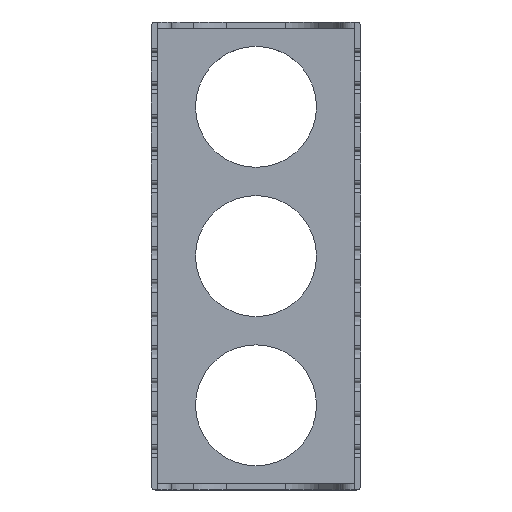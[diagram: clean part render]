
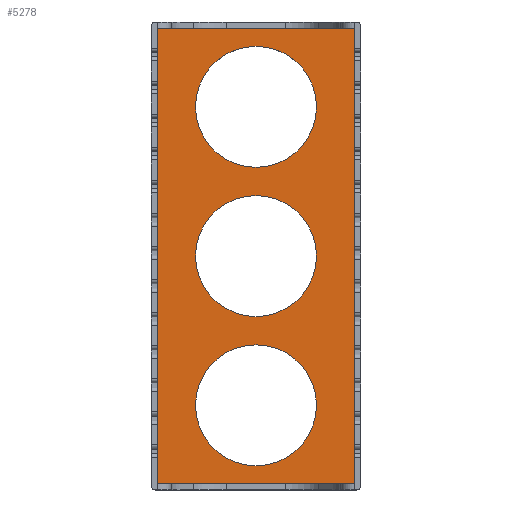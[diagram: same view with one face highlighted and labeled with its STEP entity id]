
A CAD part, top view. The second image highlights one B-rep face of the part: STEP entity #5278.
In plain terms, the highlighted planar face has unit normal (0, 0, 1).
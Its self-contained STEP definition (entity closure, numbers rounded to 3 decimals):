
#62 = PLANE('',#63);
#63 = AXIS2_PLACEMENT_3D('',#64,#65,#66);
#64 = CARTESIAN_POINT('',(3.,229.,77.));
#65 = DIRECTION('',(-1.,0.,0.));
#66 = DIRECTION('',(0.,-1.,0.));
#218 = VERTEX_POINT('',#219);
#219 = CARTESIAN_POINT('',(3.,229.,2.));
#233 = PLANE('',#234);
#234 = AXIS2_PLACEMENT_3D('',#235,#236,#237);
#235 = CARTESIAN_POINT('',(101.,229.,77.));
#236 = DIRECTION('',(0.,1.,0.));
#237 = DIRECTION('',(-1.,0.,0.));
#245 = EDGE_CURVE('',#218,#246,#248,.T.);
#246 = VERTEX_POINT('',#247);
#247 = CARTESIAN_POINT('',(3.,3.,2.));
#248 = SURFACE_CURVE('',#249,(#253,#260),.PCURVE_S1.);
#249 = LINE('',#250,#251);
#250 = CARTESIAN_POINT('',(3.,229.,2.));
#251 = VECTOR('',#252,1.);
#252 = DIRECTION('',(0.,-1.,0.));
#253 = PCURVE('',#62,#254);
#254 = DEFINITIONAL_REPRESENTATION('',(#255),#259);
#255 = LINE('',#256,#257);
#256 = CARTESIAN_POINT('',(0.,-75.));
#257 = VECTOR('',#258,1.);
#258 = DIRECTION('',(1.,0.));
#259 = ( GEOMETRIC_REPRESENTATION_CONTEXT(2) 
PARAMETRIC_REPRESENTATION_CONTEXT() REPRESENTATION_CONTEXT('2D SPACE',''
  ) );
#260 = PCURVE('',#261,#266);
#261 = PLANE('',#262);
#262 = AXIS2_PLACEMENT_3D('',#263,#264,#265);
#263 = CARTESIAN_POINT('',(52.,116.,2.));
#264 = DIRECTION('',(0.,0.,1.));
#265 = DIRECTION('',(1.,0.,-0.));
#266 = DEFINITIONAL_REPRESENTATION('',(#267),#271);
#267 = LINE('',#268,#269);
#268 = CARTESIAN_POINT('',(-49.,113.));
#269 = VECTOR('',#270,1.);
#270 = DIRECTION('',(0.,-1.));
#271 = ( GEOMETRIC_REPRESENTATION_CONTEXT(2) 
PARAMETRIC_REPRESENTATION_CONTEXT() REPRESENTATION_CONTEXT('2D SPACE',''
  ) );
#289 = PLANE('',#290);
#290 = AXIS2_PLACEMENT_3D('',#291,#292,#293);
#291 = CARTESIAN_POINT('',(3.,3.,77.));
#292 = DIRECTION('',(0.,-1.,0.));
#293 = DIRECTION('',(1.,0.,0.));
#5008 = VERTEX_POINT('',#5009);
#5009 = CARTESIAN_POINT('',(101.,229.,2.));
#5023 = PLANE('',#5024);
#5024 = AXIS2_PLACEMENT_3D('',#5025,#5026,#5027);
#5025 = CARTESIAN_POINT('',(101.,3.,77.));
#5026 = DIRECTION('',(1.,0.,0.));
#5027 = DIRECTION('',(0.,1.,0.));
#5035 = EDGE_CURVE('',#5008,#218,#5036,.T.);
#5036 = SURFACE_CURVE('',#5037,(#5041,#5048),.PCURVE_S1.);
#5037 = LINE('',#5038,#5039);
#5038 = CARTESIAN_POINT('',(101.,229.,2.));
#5039 = VECTOR('',#5040,1.);
#5040 = DIRECTION('',(-1.,0.,0.));
#5041 = PCURVE('',#233,#5042);
#5042 = DEFINITIONAL_REPRESENTATION('',(#5043),#5047);
#5043 = LINE('',#5044,#5045);
#5044 = CARTESIAN_POINT('',(0.,-75.));
#5045 = VECTOR('',#5046,1.);
#5046 = DIRECTION('',(1.,0.));
#5047 = ( GEOMETRIC_REPRESENTATION_CONTEXT(2) 
PARAMETRIC_REPRESENTATION_CONTEXT() REPRESENTATION_CONTEXT('2D SPACE',''
  ) );
#5048 = PCURVE('',#261,#5049);
#5049 = DEFINITIONAL_REPRESENTATION('',(#5050),#5054);
#5050 = LINE('',#5051,#5052);
#5051 = CARTESIAN_POINT('',(49.,113.));
#5052 = VECTOR('',#5053,1.);
#5053 = DIRECTION('',(-1.,0.));
#5054 = ( GEOMETRIC_REPRESENTATION_CONTEXT(2) 
PARAMETRIC_REPRESENTATION_CONTEXT() REPRESENTATION_CONTEXT('2D SPACE',''
  ) );
#5278 = ADVANCED_FACE('',(#5279,#5327,#5362,#5397),#261,.T.);
#5279 = FACE_BOUND('',#5280,.T.);
#5280 = EDGE_LOOP('',(#5281,#5282,#5305,#5326));
#5281 = ORIENTED_EDGE('',*,*,#245,.T.);
#5282 = ORIENTED_EDGE('',*,*,#5283,.T.);
#5283 = EDGE_CURVE('',#246,#5284,#5286,.T.);
#5284 = VERTEX_POINT('',#5285);
#5285 = CARTESIAN_POINT('',(101.,3.,2.));
#5286 = SURFACE_CURVE('',#5287,(#5291,#5298),.PCURVE_S1.);
#5287 = LINE('',#5288,#5289);
#5288 = CARTESIAN_POINT('',(3.,3.,2.));
#5289 = VECTOR('',#5290,1.);
#5290 = DIRECTION('',(1.,0.,0.));
#5291 = PCURVE('',#261,#5292);
#5292 = DEFINITIONAL_REPRESENTATION('',(#5293),#5297);
#5293 = LINE('',#5294,#5295);
#5294 = CARTESIAN_POINT('',(-49.,-113.));
#5295 = VECTOR('',#5296,1.);
#5296 = DIRECTION('',(1.,0.));
#5297 = ( GEOMETRIC_REPRESENTATION_CONTEXT(2) 
PARAMETRIC_REPRESENTATION_CONTEXT() REPRESENTATION_CONTEXT('2D SPACE',''
  ) );
#5298 = PCURVE('',#289,#5299);
#5299 = DEFINITIONAL_REPRESENTATION('',(#5300),#5304);
#5300 = LINE('',#5301,#5302);
#5301 = CARTESIAN_POINT('',(0.,-75.));
#5302 = VECTOR('',#5303,1.);
#5303 = DIRECTION('',(1.,0.));
#5304 = ( GEOMETRIC_REPRESENTATION_CONTEXT(2) 
PARAMETRIC_REPRESENTATION_CONTEXT() REPRESENTATION_CONTEXT('2D SPACE',''
  ) );
#5305 = ORIENTED_EDGE('',*,*,#5306,.T.);
#5306 = EDGE_CURVE('',#5284,#5008,#5307,.T.);
#5307 = SURFACE_CURVE('',#5308,(#5312,#5319),.PCURVE_S1.);
#5308 = LINE('',#5309,#5310);
#5309 = CARTESIAN_POINT('',(101.,3.,2.));
#5310 = VECTOR('',#5311,1.);
#5311 = DIRECTION('',(0.,1.,0.));
#5312 = PCURVE('',#261,#5313);
#5313 = DEFINITIONAL_REPRESENTATION('',(#5314),#5318);
#5314 = LINE('',#5315,#5316);
#5315 = CARTESIAN_POINT('',(49.,-113.));
#5316 = VECTOR('',#5317,1.);
#5317 = DIRECTION('',(0.,1.));
#5318 = ( GEOMETRIC_REPRESENTATION_CONTEXT(2) 
PARAMETRIC_REPRESENTATION_CONTEXT() REPRESENTATION_CONTEXT('2D SPACE',''
  ) );
#5319 = PCURVE('',#5023,#5320);
#5320 = DEFINITIONAL_REPRESENTATION('',(#5321),#5325);
#5321 = LINE('',#5322,#5323);
#5322 = CARTESIAN_POINT('',(0.,-75.));
#5323 = VECTOR('',#5324,1.);
#5324 = DIRECTION('',(1.,0.));
#5325 = ( GEOMETRIC_REPRESENTATION_CONTEXT(2) 
PARAMETRIC_REPRESENTATION_CONTEXT() REPRESENTATION_CONTEXT('2D SPACE',''
  ) );
#5326 = ORIENTED_EDGE('',*,*,#5035,.T.);
#5327 = FACE_BOUND('',#5328,.T.);
#5328 = EDGE_LOOP('',(#5329));
#5329 = ORIENTED_EDGE('',*,*,#5330,.T.);
#5330 = EDGE_CURVE('',#5331,#5331,#5333,.T.);
#5331 = VERTEX_POINT('',#5332);
#5332 = CARTESIAN_POINT('',(22.,42.,2.));
#5333 = SURFACE_CURVE('',#5334,(#5339,#5350),.PCURVE_S1.);
#5334 = CIRCLE('',#5335,30.);
#5335 = AXIS2_PLACEMENT_3D('',#5336,#5337,#5338);
#5336 = CARTESIAN_POINT('',(52.,42.,2.));
#5337 = DIRECTION('',(0.,0.,-1.));
#5338 = DIRECTION('',(-1.,0.,-0.));
#5339 = PCURVE('',#261,#5340);
#5340 = DEFINITIONAL_REPRESENTATION('',(#5341),#5349);
#5341 = ( BOUNDED_CURVE() B_SPLINE_CURVE(2,(#5342,#5343,#5344,#5345,
#5346,#5347,#5348),.UNSPECIFIED.,.T.,.F.) B_SPLINE_CURVE_WITH_KNOTS((1,2
    ,2,2,2,1),(-2.094,0.,2.094,4.189,
6.283,8.378),.UNSPECIFIED.) CURVE() 
GEOMETRIC_REPRESENTATION_ITEM() RATIONAL_B_SPLINE_CURVE((1.,0.5,1.,0.5,
1.,0.5,1.)) REPRESENTATION_ITEM('') );
#5342 = CARTESIAN_POINT('',(-30.,-74.));
#5343 = CARTESIAN_POINT('',(-30.,-22.038));
#5344 = CARTESIAN_POINT('',(15.,-48.019));
#5345 = CARTESIAN_POINT('',(60.,-74.));
#5346 = CARTESIAN_POINT('',(15.,-99.981));
#5347 = CARTESIAN_POINT('',(-30.,-125.962));
#5348 = CARTESIAN_POINT('',(-30.,-74.));
#5349 = ( GEOMETRIC_REPRESENTATION_CONTEXT(2) 
PARAMETRIC_REPRESENTATION_CONTEXT() REPRESENTATION_CONTEXT('2D SPACE',''
  ) );
#5350 = PCURVE('',#5351,#5356);
#5351 = CYLINDRICAL_SURFACE('',#5352,30.);
#5352 = AXIS2_PLACEMENT_3D('',#5353,#5354,#5355);
#5353 = CARTESIAN_POINT('',(52.,42.,0.));
#5354 = DIRECTION('',(0.,0.,-1.));
#5355 = DIRECTION('',(-1.,0.,-0.));
#5356 = DEFINITIONAL_REPRESENTATION('',(#5357),#5361);
#5357 = LINE('',#5358,#5359);
#5358 = CARTESIAN_POINT('',(0.,-2.));
#5359 = VECTOR('',#5360,1.);
#5360 = DIRECTION('',(1.,0.));
#5361 = ( GEOMETRIC_REPRESENTATION_CONTEXT(2) 
PARAMETRIC_REPRESENTATION_CONTEXT() REPRESENTATION_CONTEXT('2D SPACE',''
  ) );
#5362 = FACE_BOUND('',#5363,.T.);
#5363 = EDGE_LOOP('',(#5364));
#5364 = ORIENTED_EDGE('',*,*,#5365,.T.);
#5365 = EDGE_CURVE('',#5366,#5366,#5368,.T.);
#5366 = VERTEX_POINT('',#5367);
#5367 = CARTESIAN_POINT('',(22.,116.024,2.));
#5368 = SURFACE_CURVE('',#5369,(#5374,#5385),.PCURVE_S1.);
#5369 = CIRCLE('',#5370,30.);
#5370 = AXIS2_PLACEMENT_3D('',#5371,#5372,#5373);
#5371 = CARTESIAN_POINT('',(52.,116.024,2.));
#5372 = DIRECTION('',(0.,0.,-1.));
#5373 = DIRECTION('',(-1.,0.,-0.));
#5374 = PCURVE('',#261,#5375);
#5375 = DEFINITIONAL_REPRESENTATION('',(#5376),#5384);
#5376 = ( BOUNDED_CURVE() B_SPLINE_CURVE(2,(#5377,#5378,#5379,#5380,
#5381,#5382,#5383),.UNSPECIFIED.,.T.,.F.) B_SPLINE_CURVE_WITH_KNOTS((1,2
    ,2,2,2,1),(-2.094,0.,2.094,4.189,
6.283,8.378),.UNSPECIFIED.) CURVE() 
GEOMETRIC_REPRESENTATION_ITEM() RATIONAL_B_SPLINE_CURVE((1.,0.5,1.,0.5,
1.,0.5,1.)) REPRESENTATION_ITEM('') );
#5377 = CARTESIAN_POINT('',(-30.,0.024));
#5378 = CARTESIAN_POINT('',(-30.,51.985));
#5379 = CARTESIAN_POINT('',(15.,26.005));
#5380 = CARTESIAN_POINT('',(60.,0.024));
#5381 = CARTESIAN_POINT('',(15.,-25.957));
#5382 = CARTESIAN_POINT('',(-30.,-51.938));
#5383 = CARTESIAN_POINT('',(-30.,0.024));
#5384 = ( GEOMETRIC_REPRESENTATION_CONTEXT(2) 
PARAMETRIC_REPRESENTATION_CONTEXT() REPRESENTATION_CONTEXT('2D SPACE',''
  ) );
#5385 = PCURVE('',#5386,#5391);
#5386 = CYLINDRICAL_SURFACE('',#5387,30.);
#5387 = AXIS2_PLACEMENT_3D('',#5388,#5389,#5390);
#5388 = CARTESIAN_POINT('',(52.,116.024,0.));
#5389 = DIRECTION('',(0.,0.,-1.));
#5390 = DIRECTION('',(-1.,0.,-0.));
#5391 = DEFINITIONAL_REPRESENTATION('',(#5392),#5396);
#5392 = LINE('',#5393,#5394);
#5393 = CARTESIAN_POINT('',(0.,-2.));
#5394 = VECTOR('',#5395,1.);
#5395 = DIRECTION('',(1.,0.));
#5396 = ( GEOMETRIC_REPRESENTATION_CONTEXT(2) 
PARAMETRIC_REPRESENTATION_CONTEXT() REPRESENTATION_CONTEXT('2D SPACE',''
  ) );
#5397 = FACE_BOUND('',#5398,.T.);
#5398 = EDGE_LOOP('',(#5399));
#5399 = ORIENTED_EDGE('',*,*,#5400,.T.);
#5400 = EDGE_CURVE('',#5401,#5401,#5403,.T.);
#5401 = VERTEX_POINT('',#5402);
#5402 = CARTESIAN_POINT('',(22.,190.048,2.));
#5403 = SURFACE_CURVE('',#5404,(#5409,#5420),.PCURVE_S1.);
#5404 = CIRCLE('',#5405,30.);
#5405 = AXIS2_PLACEMENT_3D('',#5406,#5407,#5408);
#5406 = CARTESIAN_POINT('',(52.,190.048,2.));
#5407 = DIRECTION('',(0.,0.,-1.));
#5408 = DIRECTION('',(-1.,0.,-0.));
#5409 = PCURVE('',#261,#5410);
#5410 = DEFINITIONAL_REPRESENTATION('',(#5411),#5419);
#5411 = ( BOUNDED_CURVE() B_SPLINE_CURVE(2,(#5412,#5413,#5414,#5415,
#5416,#5417,#5418),.UNSPECIFIED.,.T.,.F.) B_SPLINE_CURVE_WITH_KNOTS((1,2
    ,2,2,2,1),(-2.094,0.,2.094,4.189,
6.283,8.378),.UNSPECIFIED.) CURVE() 
GEOMETRIC_REPRESENTATION_ITEM() RATIONAL_B_SPLINE_CURVE((1.,0.5,1.,0.5,
1.,0.5,1.)) REPRESENTATION_ITEM('') );
#5412 = CARTESIAN_POINT('',(-30.,74.048));
#5413 = CARTESIAN_POINT('',(-30.,126.009));
#5414 = CARTESIAN_POINT('',(15.,100.028));
#5415 = CARTESIAN_POINT('',(60.,74.048));
#5416 = CARTESIAN_POINT('',(15.,48.067));
#5417 = CARTESIAN_POINT('',(-30.,22.086));
#5418 = CARTESIAN_POINT('',(-30.,74.048));
#5419 = ( GEOMETRIC_REPRESENTATION_CONTEXT(2) 
PARAMETRIC_REPRESENTATION_CONTEXT() REPRESENTATION_CONTEXT('2D SPACE',''
  ) );
#5420 = PCURVE('',#5421,#5426);
#5421 = CYLINDRICAL_SURFACE('',#5422,30.);
#5422 = AXIS2_PLACEMENT_3D('',#5423,#5424,#5425);
#5423 = CARTESIAN_POINT('',(52.,190.048,0.));
#5424 = DIRECTION('',(0.,0.,-1.));
#5425 = DIRECTION('',(-1.,0.,-0.));
#5426 = DEFINITIONAL_REPRESENTATION('',(#5427),#5431);
#5427 = LINE('',#5428,#5429);
#5428 = CARTESIAN_POINT('',(0.,-2.));
#5429 = VECTOR('',#5430,1.);
#5430 = DIRECTION('',(1.,0.));
#5431 = ( GEOMETRIC_REPRESENTATION_CONTEXT(2) 
PARAMETRIC_REPRESENTATION_CONTEXT() REPRESENTATION_CONTEXT('2D SPACE',''
  ) );
